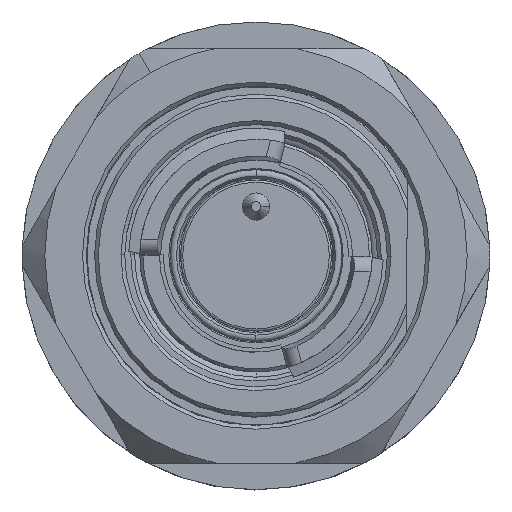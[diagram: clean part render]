
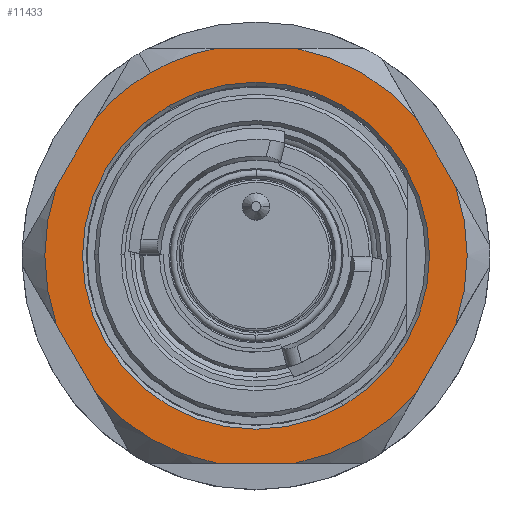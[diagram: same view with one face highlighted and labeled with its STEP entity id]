
A CAD part, top view. The second image highlights one B-rep face of the part: STEP entity #11433.
In plain terms, the highlighted planar face has unit normal (0, 0, 1).
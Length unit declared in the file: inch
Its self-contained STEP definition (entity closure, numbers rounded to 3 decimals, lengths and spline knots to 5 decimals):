
#602 = CARTESIAN_POINT ( 'NONE',  ( 0.66486, 0.0689, -0.30913 ) ) ;
#685 = CARTESIAN_POINT ( 'NONE',  ( -0.22638, 0.3921, -0.30913 ) ) ;
#993 = CARTESIAN_POINT ( 'NONE',  ( 0.41696, -0.36047, -0.30913 ) ) ;
#1550 = ORIENTED_EDGE ( 'NONE', *, *, #21558, .F. ) ;
#1732 = CARTESIAN_POINT ( 'NONE',  ( 0., 0., -0.30913 ) ) ;
#1767 = DIRECTION ( 'NONE',  ( 0., 0., 1. ) ) ;
#1985 = CARTESIAN_POINT ( 'NONE',  ( 0.3921, -0.54134, -0.30913 ) ) ;
#2365 = DIRECTION ( 'NONE',  ( -0.5, 0.866, 0. ) ) ;
#2423 = DIRECTION ( 'NONE',  ( 0., 0., 1. ) ) ;
#2884 = CARTESIAN_POINT ( 'NONE',  ( 0.22638, -0.3921, -0.30913 ) ) ;
#3057 = CARTESIAN_POINT ( 'NONE',  ( 0.1037, -0.54134, -0.30913 ) ) ;
#3061 = EDGE_CURVE ( 'NONE', #22347, #6013, #5377, .T. ) ;
#3120 = VERTEX_POINT ( 'NONE', #993 ) ;
#3146 = CARTESIAN_POINT ( 'NONE',  ( 0.52066, 0.18086, -0.30913 ) ) ;
#3272 = FACE_BOUND ( 'NONE', #17588, .T. ) ;
#3427 = VECTOR ( 'NONE', #7033, 39.37008 ) ;
#4703 = EDGE_CURVE ( 'NONE', #14735, #6013, #23128, .T. ) ;
#4980 = DIRECTION ( 'NONE',  ( 0.5, -0.866, 0. ) ) ;
#4994 = CARTESIAN_POINT ( 'NONE',  ( -0.41696, -0.36047, -0.30913 ) ) ;
#5245 = DIRECTION ( 'NONE',  ( 0.5, -0.866, 0. ) ) ;
#5377 = CIRCLE ( 'NONE', #32561, 0.55118 ) ;
#5671 = AXIS2_PLACEMENT_3D ( 'NONE', #31733, #9182, #36574 ) ;
#5718 = CARTESIAN_POINT ( 'NONE',  ( -0.41696, 0.36047, -0.30913 ) ) ;
#6013 = VERTEX_POINT ( 'NONE', #11392 ) ;
#6470 = CARTESIAN_POINT ( 'NONE',  ( -0.27276, 0.61024, -0.30913 ) ) ;
#6645 = DIRECTION ( 'NONE',  ( 0.5, 0.866, 0. ) ) ;
#6772 = FACE_OUTER_BOUND ( 'NONE', #16999, .T. ) ;
#6973 = CARTESIAN_POINT ( 'NONE',  ( -0.27559, 0.47734, -0.30913 ) ) ;
#7013 = ORIENTED_EDGE ( 'NONE', *, *, #22417, .F. ) ;
#7033 = DIRECTION ( 'NONE',  ( -0.5, -0.866, 0. ) ) ;
#7390 = CARTESIAN_POINT ( 'NONE',  ( 0.46881, 0.27067, -0.30913 ) ) ;
#7425 = VERTEX_POINT ( 'NONE', #34004 ) ;
#7701 = VECTOR ( 'NONE', #19123, 39.37008 ) ;
#8159 = DIRECTION ( 'NONE',  ( 0.5, -0.866, 0. ) ) ;
#8952 = CARTESIAN_POINT ( 'NONE',  ( 0., 0., -0.30913 ) ) ;
#9126 = VERTEX_POINT ( 'NONE', #5718 ) ;
#9182 = DIRECTION ( 'NONE',  ( 0., 0., 1. ) ) ;
#9453 = LINE ( 'NONE', #602, #3427 ) ;
#9591 = CIRCLE ( 'NONE', #14300, 0.55118 ) ;
#9831 = DIRECTION ( 'NONE',  ( 0., 0., 1. ) ) ;
#10371 = EDGE_CURVE ( 'NONE', #7425, #3120, #9453, .T. ) ;
#10471 = CARTESIAN_POINT ( 'NONE',  ( -0.1037, -0.54134, -0.30913 ) ) ;
#10690 = CARTESIAN_POINT ( 'NONE',  ( -0.52066, 0.18086, -0.30913 ) ) ;
#10865 = LINE ( 'NONE', #27684, #34980 ) ;
#10991 = VERTEX_POINT ( 'NONE', #10471 ) ;
#11392 = CARTESIAN_POINT ( 'NONE',  ( 0.1037, 0.54134, -0.30913 ) ) ;
#11433 = ADVANCED_FACE ( 'NONE', ( #3272, #6772 ), #18018, .F. ) ;
#11894 = ORIENTED_EDGE ( 'NONE', *, *, #4703, .F. ) ;
#12006 = VECTOR ( 'NONE', #28504, 39.37008 ) ;
#12060 = ORIENTED_EDGE ( 'NONE', *, *, #22607, .F. ) ;
#12337 = AXIS2_PLACEMENT_3D ( 'NONE', #13292, #21585, #4980 ) ;
#12841 = VERTEX_POINT ( 'NONE', #3057 ) ;
#12936 = CARTESIAN_POINT ( 'NONE',  ( 0.41696, 0.36047, -0.30913 ) ) ;
#13196 = CARTESIAN_POINT ( 'NONE',  ( 0., 0., -0.30913 ) ) ;
#13292 = CARTESIAN_POINT ( 'NONE',  ( 0., 0., -0.30913 ) ) ;
#13740 = DIRECTION ( 'NONE',  ( 0., 0., 1. ) ) ;
#14300 = AXIS2_PLACEMENT_3D ( 'NONE', #27200, #19036, #30346 ) ;
#14527 = DIRECTION ( 'NONE',  ( -0.5, 0.866, 0. ) ) ;
#14735 = VERTEX_POINT ( 'NONE', #28683 ) ;
#15007 = AXIS2_PLACEMENT_3D ( 'NONE', #27029, #16272, #24063 ) ;
#15460 = ORIENTED_EDGE ( 'NONE', *, *, #19304, .T. ) ;
#15816 = CIRCLE ( 'NONE', #24671, 0.45276 ) ;
#15844 = AXIS2_PLACEMENT_3D ( 'NONE', #29317, #28586, #14527 ) ;
#16272 = DIRECTION ( 'NONE',  ( 0., 0., 1. ) ) ;
#16999 = EDGE_LOOP ( 'NONE', ( #1550, #26486, #28417, #28652, #7013, #26103, #11894, #31865, #15460, #12060, #19943, #25602, #27689 ) ) ;
#17588 = EDGE_LOOP ( 'NONE', ( #19610, #24002 ) ) ;
#17713 = LINE ( 'NONE', #6470, #20164 ) ;
#17768 = CARTESIAN_POINT ( 'NONE',  ( 0., 0., -0.30913 ) ) ;
#17783 = AXIS2_PLACEMENT_3D ( 'NONE', #13196, #1767, #5245 ) ;
#17901 = CIRCLE ( 'NONE', #34648, 0.55118 ) ;
#17954 = EDGE_CURVE ( 'NONE', #12841, #3120, #35535, .T. ) ;
#18018 = PLANE ( 'NONE',  #15844 ) ;
#18088 = VERTEX_POINT ( 'NONE', #31317 ) ;
#18314 = DIRECTION ( 'NONE',  ( 0., 0., 1. ) ) ;
#19036 = DIRECTION ( 'NONE',  ( 0., 0., 1. ) ) ;
#19123 = DIRECTION ( 'NONE',  ( -1., 0., 0. ) ) ;
#19304 = EDGE_CURVE ( 'NONE', #33292, #9126, #17901, .T. ) ;
#19610 = ORIENTED_EDGE ( 'NONE', *, *, #24044, .F. ) ;
#19943 = ORIENTED_EDGE ( 'NONE', *, *, #23446, .T. ) ;
#20164 = VECTOR ( 'NONE', #6645, 39.37008 ) ;
#21558 = EDGE_CURVE ( 'NONE', #12841, #10991, #33760, .T. ) ;
#21585 = DIRECTION ( 'NONE',  ( 0., 0., 1. ) ) ;
#22347 = VERTEX_POINT ( 'NONE', #12936 ) ;
#22417 = EDGE_CURVE ( 'NONE', #22347, #24810, #29392, .T. ) ;
#22607 = EDGE_CURVE ( 'NONE', #34913, #9126, #17713, .T. ) ;
#23128 = LINE ( 'NONE', #28694, #12006 ) ;
#23194 = EDGE_CURVE ( 'NONE', #33517, #32074, #15816, .T. ) ;
#23431 = EDGE_CURVE ( 'NONE', #7425, #24810, #9591, .T. ) ;
#23446 = EDGE_CURVE ( 'NONE', #34913, #18088, #34530, .T. ) ;
#24002 = ORIENTED_EDGE ( 'NONE', *, *, #23194, .F. ) ;
#24044 = EDGE_CURVE ( 'NONE', #32074, #33517, #31067, .T. ) ;
#24063 = DIRECTION ( 'NONE',  ( 0.5, -0.866, 0. ) ) ;
#24671 = AXIS2_PLACEMENT_3D ( 'NONE', #8952, #13740, #36527 ) ;
#24810 = VERTEX_POINT ( 'NONE', #3146 ) ;
#25414 = VERTEX_POINT ( 'NONE', #4994 ) ;
#25602 = ORIENTED_EDGE ( 'NONE', *, *, #31174, .F. ) ;
#26103 = ORIENTED_EDGE ( 'NONE', *, *, #3061, .T. ) ;
#26174 = EDGE_CURVE ( 'NONE', #25414, #10991, #31862, .T. ) ;
#26295 = AXIS2_PLACEMENT_3D ( 'NONE', #27372, #2423, #8159 ) ;
#26486 = ORIENTED_EDGE ( 'NONE', *, *, #17954, .T. ) ;
#26620 = DIRECTION ( 'NONE',  ( 0.5, -0.866, 0. ) ) ;
#27029 = CARTESIAN_POINT ( 'NONE',  ( 0., 0., -0.30913 ) ) ;
#27200 = CARTESIAN_POINT ( 'NONE',  ( 0., 0., -0.30913 ) ) ;
#27372 = CARTESIAN_POINT ( 'NONE',  ( 0., 0., -0.30913 ) ) ;
#27684 = CARTESIAN_POINT ( 'NONE',  ( -0.46881, -0.27067, -0.30913 ) ) ;
#27689 = ORIENTED_EDGE ( 'NONE', *, *, #26174, .T. ) ;
#28417 = ORIENTED_EDGE ( 'NONE', *, *, #10371, .F. ) ;
#28504 = DIRECTION ( 'NONE',  ( 1., 0., 0. ) ) ;
#28586 = DIRECTION ( 'NONE',  ( 0., 0., -1. ) ) ;
#28652 = ORIENTED_EDGE ( 'NONE', *, *, #23431, .T. ) ;
#28683 = CARTESIAN_POINT ( 'NONE',  ( -0.1037, 0.54134, -0.30913 ) ) ;
#28694 = CARTESIAN_POINT ( 'NONE',  ( 0.3921, 0.54134, -0.30913 ) ) ;
#29317 = CARTESIAN_POINT ( 'NONE',  ( 0.3921, 0.22638, -0.30913 ) ) ;
#29392 = LINE ( 'NONE', #7390, #36448 ) ;
#30346 = DIRECTION ( 'NONE',  ( 0.5, -0.866, 0. ) ) ;
#31067 = CIRCLE ( 'NONE', #5671, 0.45276 ) ;
#31174 = EDGE_CURVE ( 'NONE', #25414, #18088, #10865, .T. ) ;
#31317 = CARTESIAN_POINT ( 'NONE',  ( -0.52066, -0.18086, -0.30913 ) ) ;
#31733 = CARTESIAN_POINT ( 'NONE',  ( 0., 0., -0.30913 ) ) ;
#31862 = CIRCLE ( 'NONE', #12337, 0.55118 ) ;
#31865 = ORIENTED_EDGE ( 'NONE', *, *, #35056, .T. ) ;
#32074 = VERTEX_POINT ( 'NONE', #2884 ) ;
#32395 = DIRECTION ( 'NONE',  ( 0.5, -0.866, 0. ) ) ;
#32561 = AXIS2_PLACEMENT_3D ( 'NONE', #17768, #9831, #32395 ) ;
#32778 = DIRECTION ( 'NONE',  ( 0.5, -0.866, 0. ) ) ;
#33292 = VERTEX_POINT ( 'NONE', #6973 ) ;
#33517 = VERTEX_POINT ( 'NONE', #685 ) ;
#33760 = LINE ( 'NONE', #1985, #7701 ) ;
#34004 = CARTESIAN_POINT ( 'NONE',  ( 0.52066, -0.18086, -0.30913 ) ) ;
#34530 = CIRCLE ( 'NONE', #15007, 0.55118 ) ;
#34648 = AXIS2_PLACEMENT_3D ( 'NONE', #1732, #18314, #32778 ) ;
#34913 = VERTEX_POINT ( 'NONE', #10690 ) ;
#34980 = VECTOR ( 'NONE', #2365, 39.37008 ) ;
#35056 = EDGE_CURVE ( 'NONE', #14735, #33292, #35763, .T. ) ;
#35535 = CIRCLE ( 'NONE', #17783, 0.55118 ) ;
#35763 = CIRCLE ( 'NONE', #26295, 0.55118 ) ;
#36448 = VECTOR ( 'NONE', #26620, 39.37008 ) ;
#36527 = DIRECTION ( 'NONE',  ( 0.5, -0.866, 0. ) ) ;
#36574 = DIRECTION ( 'NONE',  ( 0.5, -0.866, 0. ) ) ;
